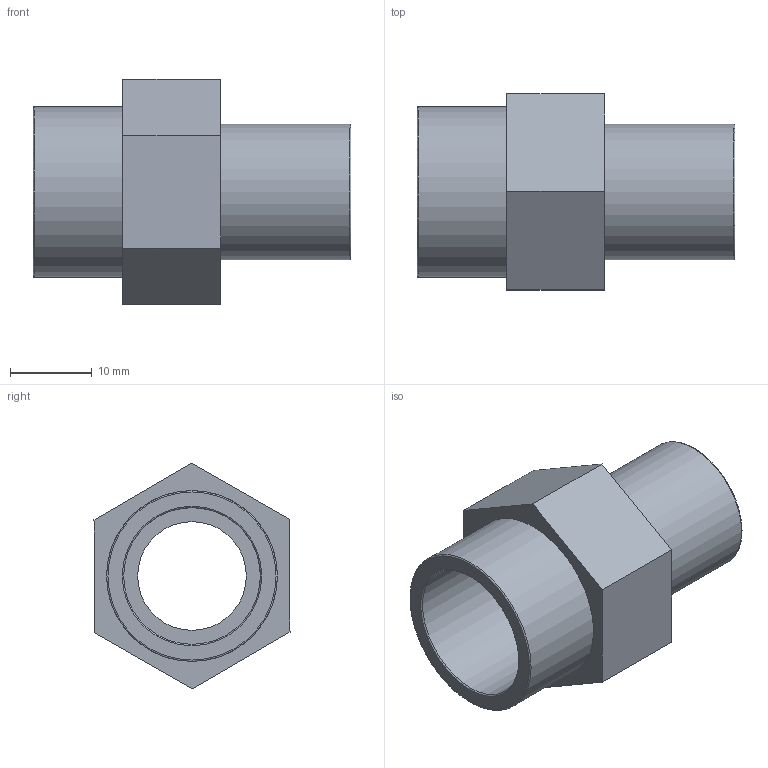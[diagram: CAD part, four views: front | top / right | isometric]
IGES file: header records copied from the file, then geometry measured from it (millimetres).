
Global section: file name: 051601005003.ipt; native system: Autodesk Inventor 2015; preprocessor: unknown; author: KIM; date: 20171207.165250; units: millimetre
Bounding box: 39 x 24.05 x 27.71 mm (x, y, z)
Volume: 6217.4 mm3; surface area: 5109.5 mm2
Topology: 1 solids, 1 shells, 19 faces, 50 edges, 36 vertices
Faces by surface type: plane 11, revolution 6, cylinder 2
Full cylindrical faces by diameter (mm): 16.662 x1, 20.955 x1
